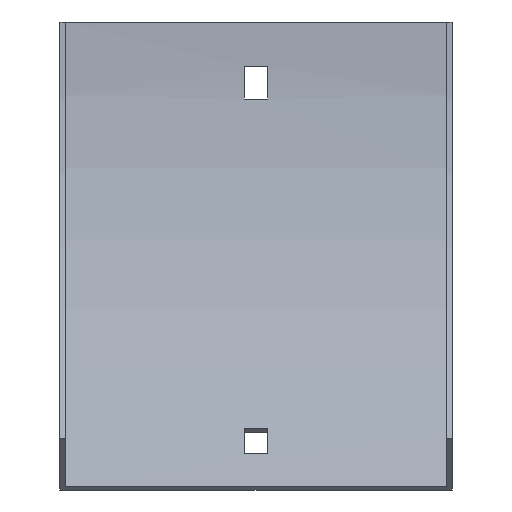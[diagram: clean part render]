
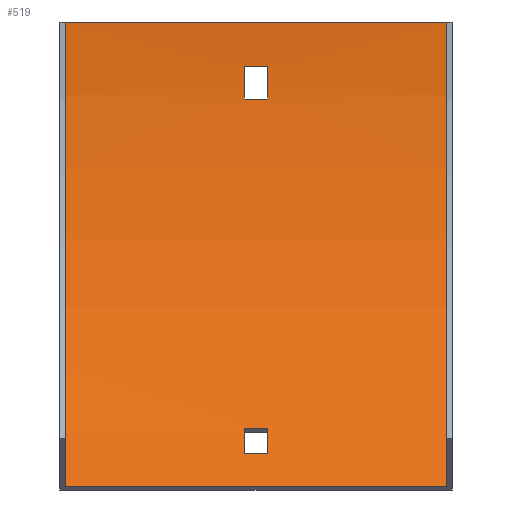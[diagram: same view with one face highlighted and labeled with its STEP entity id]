
A CAD part, front view. The second image highlights one B-rep face of the part: STEP entity #519.
In plain terms, the highlighted cylindrical face has radius 179 mm (diameter 358 mm), a partial arc.
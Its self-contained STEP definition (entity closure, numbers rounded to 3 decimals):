
#1 = DIRECTION ( 'NONE',  ( 0., 0., 1. ) ) ;
#2 = EDGE_CURVE ( 'NONE', #180, #253, #242, .T. ) ;
#13 = DIRECTION ( 'NONE',  ( -1., 0., 0. ) ) ;
#24 = VECTOR ( 'NONE', #280, 1000. ) ;
#25 = DIRECTION ( 'NONE',  ( 1., 0., 0. ) ) ;
#26 = LINE ( 'NONE', #214, #315 ) ;
#34 = DIRECTION ( 'NONE',  ( -1., 0., 0. ) ) ;
#40 = CARTESIAN_POINT ( 'NONE',  ( -3.25, -1.903, -12. ) ) ;
#42 = CARTESIAN_POINT ( 'NONE',  ( 3.25, -180.5, 0. ) ) ;
#43 = AXIS2_PLACEMENT_3D ( 'NONE', #376, #25, #459 ) ;
#46 = CARTESIAN_POINT ( 'NONE',  ( -52., -180.5, 0. ) ) ;
#47 = DIRECTION ( 'NONE',  ( -1., 0., 0. ) ) ;
#48 = CARTESIAN_POINT ( 'NONE',  ( 53.5, -2.736, -21. ) ) ;
#51 = CYLINDRICAL_SURFACE ( 'NONE', #96, 179. ) ;
#52 = DIRECTION ( 'NONE',  ( 1., 0., 0. ) ) ;
#67 = EDGE_CURVE ( 'NONE', #322, #332, #371, .T. ) ;
#70 = VERTEX_POINT ( 'NONE', #514 ) ;
#78 = CIRCLE ( 'NONE', #234, 179. ) ;
#85 = CIRCLE ( 'NONE', #208, 179. ) ;
#96 = AXIS2_PLACEMENT_3D ( 'NONE', #98, #47, #423 ) ;
#98 = CARTESIAN_POINT ( 'NONE',  ( 53.5, -180.5, 0. ) ) ;
#103 = FACE_BOUND ( 'NONE', #245, .T. ) ;
#109 = ORIENTED_EDGE ( 'NONE', *, *, #457, .T. ) ;
#115 = EDGE_CURVE ( 'NONE', #310, #351, #78, .T. ) ;
#118 = VERTEX_POINT ( 'NONE', #506 ) ;
#158 = AXIS2_PLACEMENT_3D ( 'NONE', #593, #355, #173 ) ;
#159 = CARTESIAN_POINT ( 'NONE',  ( 3.25, -2.736, -21. ) ) ;
#160 = VERTEX_POINT ( 'NONE', #588 ) ;
#161 = AXIS2_PLACEMENT_3D ( 'NONE', #42, #183, #232 ) ;
#173 = DIRECTION ( 'NONE',  ( 0., 0., 1. ) ) ;
#178 = CARTESIAN_POINT ( 'NONE',  ( 52., -53.928, -126.572 ) ) ;
#179 = EDGE_CURVE ( 'NONE', #272, #70, #406, .T. ) ;
#180 = VERTEX_POINT ( 'NONE', #225 ) ;
#183 = DIRECTION ( 'NONE',  ( -1., 0., 0. ) ) ;
#191 = DIRECTION ( 'NONE',  ( 1., 0., 0. ) ) ;
#198 = DIRECTION ( 'NONE',  ( -1., 0., 0. ) ) ;
#199 = VERTEX_POINT ( 'NONE', #594 ) ;
#208 = AXIS2_PLACEMENT_3D ( 'NONE', #386, #233, #555 ) ;
#214 = CARTESIAN_POINT ( 'NONE',  ( 53.5, -45.727, -117.802 ) ) ;
#220 = EDGE_CURVE ( 'NONE', #351, #463, #537, .T. ) ;
#222 = EDGE_CURVE ( 'NONE', #463, #160, #85, .T. ) ;
#225 = CARTESIAN_POINT ( 'NONE',  ( 3.25, -39.953, -110.849 ) ) ;
#229 = DIRECTION ( 'NONE',  ( -1., 0., 0. ) ) ;
#232 = DIRECTION ( 'NONE',  ( 0., 0., 1. ) ) ;
#233 = DIRECTION ( 'NONE',  ( 1., 0., 0. ) ) ;
#234 = AXIS2_PLACEMENT_3D ( 'NONE', #560, #277, #424 ) ;
#240 = EDGE_CURVE ( 'NONE', #253, #118, #26, .T. ) ;
#242 = CIRCLE ( 'NONE', #161, 179. ) ;
#245 = EDGE_LOOP ( 'NONE', ( #252, #325, #109, #498 ) ) ;
#252 = ORIENTED_EDGE ( 'NONE', *, *, #240, .T. ) ;
#253 = VERTEX_POINT ( 'NONE', #341 ) ;
#261 = ORIENTED_EDGE ( 'NONE', *, *, #115, .F. ) ;
#272 = VERTEX_POINT ( 'NONE', #488 ) ;
#277 = DIRECTION ( 'NONE',  ( -1., 0., 0. ) ) ;
#280 = DIRECTION ( 'NONE',  ( 1., 0., 0. ) ) ;
#292 = LINE ( 'NONE', #474, #309 ) ;
#294 = VECTOR ( 'NONE', #34, 1000. ) ;
#304 = EDGE_CURVE ( 'NONE', #322, #272, #497, .T. ) ;
#309 = VECTOR ( 'NONE', #198, 1000. ) ;
#310 = VERTEX_POINT ( 'NONE', #40 ) ;
#311 = ORIENTED_EDGE ( 'NONE', *, *, #477, .F. ) ;
#315 = VECTOR ( 'NONE', #13, 1000. ) ;
#318 = CARTESIAN_POINT ( 'NONE',  ( 52., -1.5, 0. ) ) ;
#322 = VERTEX_POINT ( 'NONE', #178 ) ;
#325 = ORIENTED_EDGE ( 'NONE', *, *, #396, .T. ) ;
#326 = FACE_OUTER_BOUND ( 'NONE', #544, .T. ) ;
#332 = VERTEX_POINT ( 'NONE', #366 ) ;
#333 = CARTESIAN_POINT ( 'NONE',  ( 53.5, -39.953, -110.849 ) ) ;
#340 = ORIENTED_EDGE ( 'NONE', *, *, #67, .F. ) ;
#341 = CARTESIAN_POINT ( 'NONE',  ( 3.25, -45.727, -117.802 ) ) ;
#351 = VERTEX_POINT ( 'NONE', #541 ) ;
#355 = DIRECTION ( 'NONE',  ( 1., 0., 0. ) ) ;
#366 = CARTESIAN_POINT ( 'NONE',  ( -52., -53.928, -126.572 ) ) ;
#371 = LINE ( 'NONE', #427, #601 ) ;
#376 = CARTESIAN_POINT ( 'NONE',  ( -3.25, -180.5, 0. ) ) ;
#386 = CARTESIAN_POINT ( 'NONE',  ( 3.25, -180.5, 0. ) ) ;
#394 = EDGE_LOOP ( 'NONE', ( #261, #520, #585, #432 ) ) ;
#396 = EDGE_CURVE ( 'NONE', #118, #199, #398, .T. ) ;
#398 = CIRCLE ( 'NONE', #43, 179. ) ;
#406 = LINE ( 'NONE', #318, #294 ) ;
#414 = AXIS2_PLACEMENT_3D ( 'NONE', #46, #191, #1 ) ;
#423 = DIRECTION ( 'NONE',  ( 0., 0., 1. ) ) ;
#424 = DIRECTION ( 'NONE',  ( 0., 0., 1. ) ) ;
#427 = CARTESIAN_POINT ( 'NONE',  ( 52., -53.928, -126.572 ) ) ;
#432 = ORIENTED_EDGE ( 'NONE', *, *, #220, .F. ) ;
#455 = CIRCLE ( 'NONE', #414, 179. ) ;
#457 = EDGE_CURVE ( 'NONE', #199, #180, #556, .T. ) ;
#459 = DIRECTION ( 'NONE',  ( 0., 0., -1. ) ) ;
#462 = VECTOR ( 'NONE', #52, 1000. ) ;
#463 = VERTEX_POINT ( 'NONE', #159 ) ;
#474 = CARTESIAN_POINT ( 'NONE',  ( 53.5, -1.903, -12. ) ) ;
#477 = EDGE_CURVE ( 'NONE', #332, #70, #455, .T. ) ;
#487 = ORIENTED_EDGE ( 'NONE', *, *, #304, .T. ) ;
#488 = CARTESIAN_POINT ( 'NONE',  ( 52., -1.5, 0. ) ) ;
#489 = EDGE_CURVE ( 'NONE', #160, #310, #292, .T. ) ;
#497 = CIRCLE ( 'NONE', #158, 179. ) ;
#498 = ORIENTED_EDGE ( 'NONE', *, *, #2, .T. ) ;
#506 = CARTESIAN_POINT ( 'NONE',  ( -3.25, -45.727, -117.802 ) ) ;
#514 = CARTESIAN_POINT ( 'NONE',  ( -52., -1.5, 0. ) ) ;
#516 = FACE_BOUND ( 'NONE', #394, .T. ) ;
#519 = ADVANCED_FACE ( 'NONE', ( #516, #326, #103 ), #51, .F. ) ;
#520 = ORIENTED_EDGE ( 'NONE', *, *, #489, .F. ) ;
#528 = ORIENTED_EDGE ( 'NONE', *, *, #179, .T. ) ;
#537 = LINE ( 'NONE', #48, #462 ) ;
#541 = CARTESIAN_POINT ( 'NONE',  ( -3.25, -2.736, -21. ) ) ;
#544 = EDGE_LOOP ( 'NONE', ( #311, #340, #487, #528 ) ) ;
#555 = DIRECTION ( 'NONE',  ( 0., 0., -1. ) ) ;
#556 = LINE ( 'NONE', #333, #24 ) ;
#560 = CARTESIAN_POINT ( 'NONE',  ( -3.25, -180.5, 0. ) ) ;
#585 = ORIENTED_EDGE ( 'NONE', *, *, #222, .F. ) ;
#588 = CARTESIAN_POINT ( 'NONE',  ( 3.25, -1.903, -12. ) ) ;
#593 = CARTESIAN_POINT ( 'NONE',  ( 52., -180.5, 0. ) ) ;
#594 = CARTESIAN_POINT ( 'NONE',  ( -3.25, -39.953, -110.849 ) ) ;
#601 = VECTOR ( 'NONE', #229, 1000. ) ;
